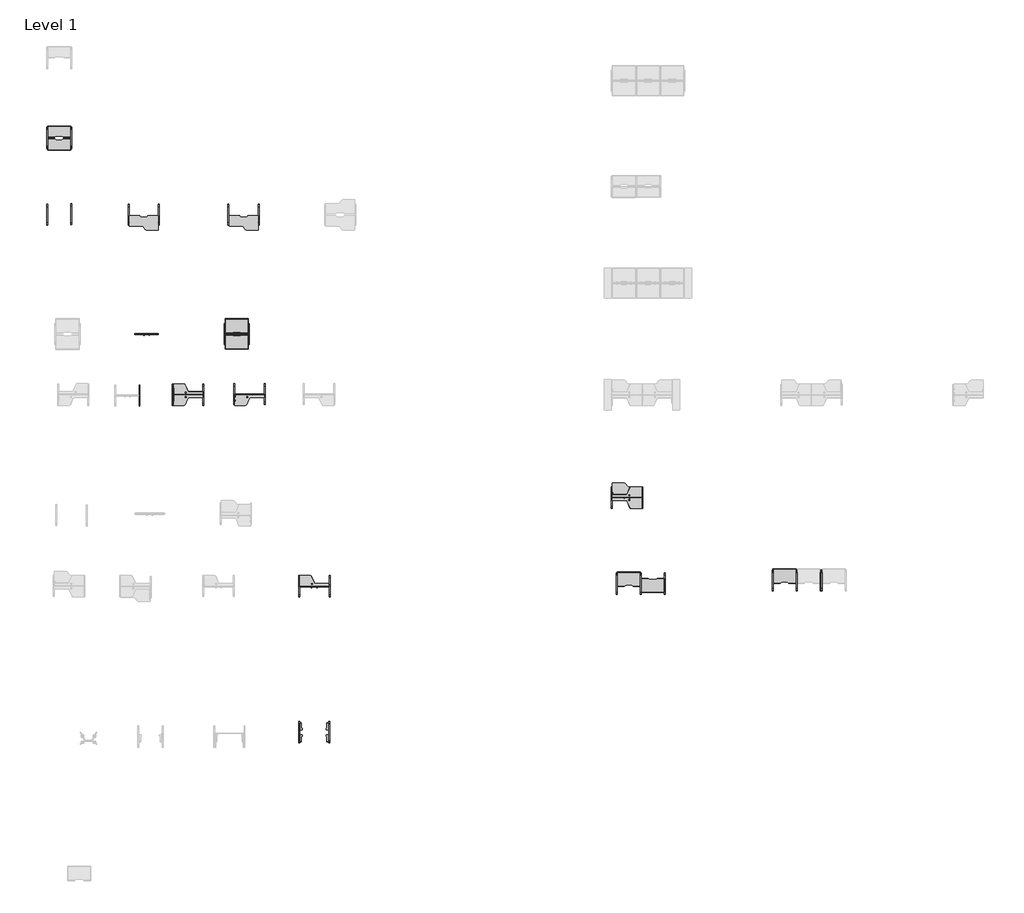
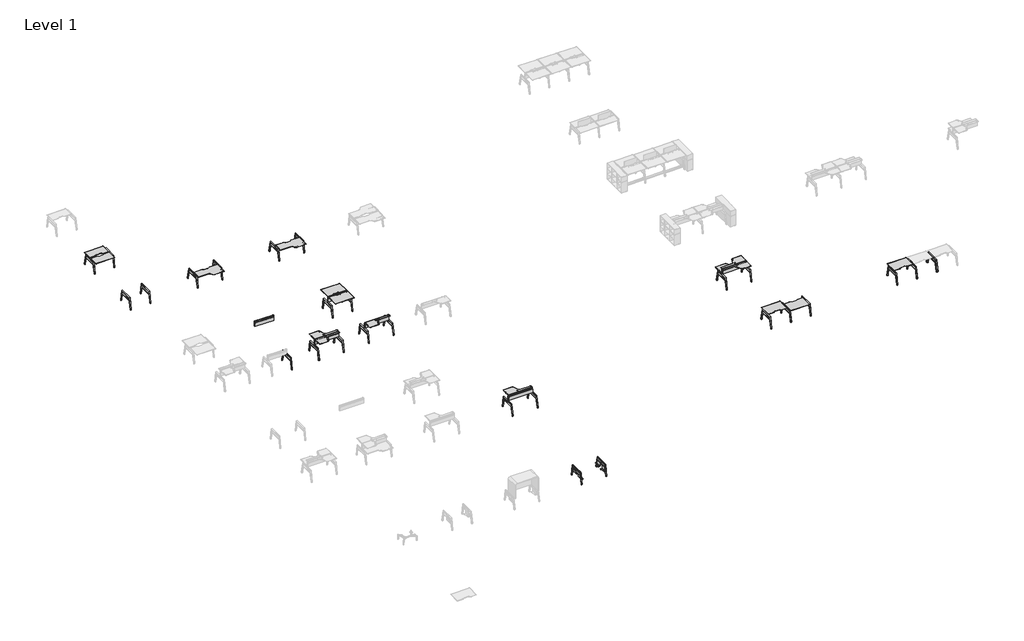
# One storey, part 2 of 6: 114 furniture elements.
"""IFC4 building model written with IfcOpenShell, lengths in millimetres."""

from ifc_helpers import new_model, si_unit, origin, place, context, project, spatial, transform, mapped, element, save
from components import furniture_6679164a, furniture_0e55591c, furniture_07929c5c, furniture_8338bea9, furniture_6d1c9745, furniture_5ffd5a01, furniture_48w_f59d3814, furniture_60w_9ca0c22e, furniture_60w_left_193ce283, furniture_60w_left_80dfc609, furniture_60w_right_423f7bdd, furniture_60w_right_6b6f8c7d, furniture_60w_right_09d68f9b, bracket_5da60547, bracket_b20a2959, double_mini_hook_front_8bcf4326, full_half_8ba35e3a, full_half_125b1efd

model = new_model("IFC4")

# Units and contexts
model_context = context("Model", 3, world=origin())
ifc_project = project(units=[si_unit("LENGTHUNIT", "METRE", prefix="MILLI")], contexts=[model_context])

# Site, building, storey
site = spatial("IfcSite", under=ifc_project)
building = spatial("IfcBuilding", under=site)
storey = spatial("IfcBuildingStorey", under=building, Name="Level 1", Elevation=0.0)

# Furniture
placement = place(None, origin())
furniture_shape = furniture_6679164a(model_context)
element("IfcFurniture", 1, ObjectType="Steelcase Turnstone - Bivi - Table - Table Top : 30D x 48W", at=placement, inside=storey, context=model_context, shape_type="MappedRepresentation", body=[
    mapped(furniture_shape, transform((702770.0460271, -10095.5014465, 330.2), x_axis=(-1.0, 0.0, 0.0), y_axis=(0.0, -1.0, 0.0), z_axis=(0.0, 0.0, 1.0))),
])
element("IfcFurniture", 2, ObjectType="Steelcase Turnstone - Bivi - Table - Table Top : 30D x 48W", at=placement, inside=storey, context=model_context, shape_type="MappedRepresentation", body=[
    mapped(furniture_shape, transform((722528.857593, -22875.5118304, 0.0), x_axis=(-1.0, 0.0, 0.0), y_axis=(0.0, -1.0, 0.0), z_axis=(0.0, 0.0, 1.0))),
])
element("IfcFurniture", 3, ObjectType="Steelcase Turnstone - Bivi - Table - Table Top : 30D x 48W", at=placement, inside=storey, context=model_context, shape_type="MappedRepresentation", body=[
    mapped(furniture_shape, transform((722273.181193, -23909.2254704, 0.0), x_axis=(0.9999999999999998, 0.0, 0.0), y_axis=(0.0, 0.9999999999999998, 0.0), z_axis=(0.0, 0.0, 1.0))),
])
element("IfcFurniture", 4, ObjectType="Steelcase Turnstone - Bivi - Table - Table Top : 30D x 48W", at=placement, inside=storey, context=model_context, shape_type="MappedRepresentation", body=[
    mapped(furniture_shape, transform((730388.9023207, -22712.7570381, 0.0), x_axis=(-1.0, 0.0, 0.0), y_axis=(0.0, -1.0, 0.0), z_axis=(0.0, 0.0, 1.0))),
])
furniture_2_shape = furniture_0e55591c(model_context)
element("IfcFurniture", 5, ObjectType="Steelcase Turnstone - Bivi - Table - Table Top : 24D x 48W", at=placement, inside=storey, context=model_context, shape_type="MappedRepresentation", body=[
    mapped(furniture_2_shape, transform((693812.8186567, -215.7178333, 0.0), x_axis=(-1.0, 0.0, 0.0), y_axis=(0.0, -1.0, 0.0), z_axis=(0.0, 0.0, 1.0))),
])
furniture_3_shape = furniture_07929c5c(model_context)
element("IfcFurniture", 6, ObjectType="Steelcase Turnstone - Bivi - Table - Leg : 2D x 42 1/4W 28 1/2H", at=placement, inside=storey, context=model_context, shape_type="MappedRepresentation", body=[
    mapped(furniture_3_shape, transform((693709.5422567, -1514.1238279, 0.0), x_axis=(-1.0, 0.0, 0.0), y_axis=(0.0, -1.0, 0.0), z_axis=(0.0, 0.0, 1.0))),
])
element("IfcFurniture", 7, ObjectType="Steelcase Turnstone - Bivi - Table - Leg : 2D x 42 1/4W 28 1/2H", at=placement, inside=storey, context=model_context, shape_type="MappedRepresentation", body=[
    mapped(furniture_3_shape, transform((697154.305945, -14498.0445441, 0.0), x_axis=(-1.0, 0.0, 0.0), y_axis=(0.0, -1.0, 0.0), z_axis=(0.0, 0.0, 1.0))),
])
element("IfcFurniture", 8, ObjectType="Steelcase Turnstone - Bivi - Table - Leg : 2D x 42 1/4W 28 1/2H", at=placement, inside=storey, context=model_context, shape_type="MappedRepresentation", body=[
    mapped(furniture_3_shape, transform((700363.4208352, -14467.3937544, 0.0), x_axis=(-1.0, 0.0, 0.0), y_axis=(0.0, -1.0, 0.0), z_axis=(0.0, 0.0, 1.0))),
])
element("IfcFurniture", 9, ObjectType="Steelcase Turnstone - Bivi - Table - Leg : 2D x 42 1/4W 28 1/2H", at=placement, inside=storey, context=model_context, shape_type="MappedRepresentation", body=[
    mapped(furniture_3_shape, transform((693709.5422567, -5357.2879484, 0.0), x_axis=(-1.0, 0.0, 0.0), y_axis=(0.0, -1.0, 0.0), z_axis=(0.0, 0.0, 1.0))),
])
element("IfcFurniture", 10, ObjectType="Steelcase Turnstone - Bivi - Table - Leg : 2D x 42 1/4W 28 1/2H", at=placement, inside=storey, context=model_context, shape_type="MappedRepresentation", body=[
    mapped(furniture_3_shape, transform((698129.1482581, -5382.1993674, 0.0), x_axis=(-1.0, 0.0, 0.0), y_axis=(0.0, -1.0, 0.0), z_axis=(0.0, 0.0, 1.0))),
])
element("IfcFurniture", 11, ObjectType="Steelcase Turnstone - Bivi - Table - Leg : 2D x 42 1/4W 28 1/2H", at=placement, inside=storey, context=model_context, shape_type="MappedRepresentation", body=[
    mapped(furniture_3_shape, transform((703171.0482581, -5382.1993674, 0.0), x_axis=(-1.0, 0.0, 0.0), y_axis=(0.0, -1.0, 0.0), z_axis=(0.0, 0.0, 1.0))),
])
element("IfcFurniture", 12, ObjectType="Steelcase Turnstone - Bivi - Table - Leg : 2D x 42 1/4W 28 1/2H", at=placement, inside=storey, context=model_context, shape_type="MappedRepresentation", body=[
    mapped(furniture_3_shape, transform((706733.9327901, -24123.6204149, 0.0), x_axis=(-1.0, 0.0, 0.0), y_axis=(0.0, -1.0, 0.0), z_axis=(0.0, 0.0, 1.0))),
])
element("IfcFurniture", 13, ObjectType="Steelcase Turnstone - Bivi - Table - Leg : 2D x 42 1/4W 28 1/2H", at=placement, inside=storey, context=model_context, shape_type="MappedRepresentation", body=[
    mapped(furniture_3_shape, transform((722492.1850089, -19651.9967596, 0.0), x_axis=(-1.0, 0.0, 0.0), y_axis=(0.0, -1.0, 0.0), z_axis=(0.0, 0.0, 1.0))),
])
element("IfcFurniture", 14, ObjectType="Steelcase Turnstone - Bivi - Table - Leg : 2D x 42 1/4W 28 1/2H", at=placement, inside=storey, context=model_context, shape_type="MappedRepresentation", body=[
    mapped(furniture_3_shape, transform((722425.581193, -23991.0644247, 0.0), x_axis=(-1.0, 0.0, 0.0), y_axis=(0.0, -1.0, 0.0), z_axis=(0.0, 0.0, 1.0))),
])
element("IfcFurniture", 15, ObjectType="Steelcase Turnstone - Bivi - Table - Leg : 2D x 42 1/4W 28 1/2H", at=placement, inside=storey, context=model_context, shape_type="MappedRepresentation", body=[
    mapped(furniture_3_shape, transform((730285.6259207, -23828.3096324, 0.0), x_axis=(-1.0, 0.0, 0.0), y_axis=(0.0, -1.0, 0.0), z_axis=(0.0, 0.0, 1.0))),
])
element("IfcFurniture", 16, ObjectType="Steelcase Turnstone - Bivi - Table - Leg : 2D x 42 1/4W 28 1/2H", at=placement, inside=storey, context=model_context, shape_type="MappedRepresentation", body=[
    mapped(furniture_3_shape, transform((731553.9495207, -23828.3096324, 0.0), x_axis=(-1.0, 0.0, 0.0), y_axis=(0.0, -1.0, 0.0), z_axis=(0.0, 0.0, 1.0))),
])
element("IfcFurniture", 17, ObjectType="Steelcase Turnstone - Bivi - Table - Leg : 2D x 42 1/4W 28 1/2H", at=placement, inside=storey, context=model_context, shape_type="MappedRepresentation", body=[
    mapped(furniture_3_shape, transform((702666.7696271, -11401.7598524, 0.0), x_axis=(-1.0, 0.0, 0.0), y_axis=(0.0, -1.0, 0.0), z_axis=(0.0, 0.0, 1.0))),
])
element("IfcFurniture", 18, ObjectType="Steelcase Turnstone - Bivi - Table - Leg : 2D x 42 1/4W 28 1/2H", at=placement, inside=storey, context=model_context, shape_type="MappedRepresentation", body=[
    mapped(furniture_3_shape, transform((703462.2208352, -14423.847304, 0.0), x_axis=(-1.0, 0.0, 0.0), y_axis=(0.0, -1.0, 0.0), z_axis=(0.0, 0.0, 1.0))),
])
element("IfcFurniture", 19, ObjectType="Steelcase Turnstone - Bivi - Table - Leg : 2D x 42 1/4W 28 1/2H", at=placement, inside=storey, context=model_context, shape_type="MappedRepresentation", body=[
    mapped(furniture_3_shape, transform((706715.3251728, -31482.8828317, 0.0), x_axis=(-1.0, 0.0, 0.0), y_axis=(0.0, -1.0, 0.0), z_axis=(0.0, 0.0, 1.0))),
])
furniture_4_shape = furniture_8338bea9(model_context)
element("IfcFurniture", 20, ObjectType="Steelcase Turnstone - Bivi - Table - Table Top : 24D x 48W", at=placement, inside=storey, context=model_context, shape_type="MappedRepresentation", body=[
    mapped(furniture_4_shape, transform((693812.8186567, -1739.2559237, 0.0), x_axis=(-1.0, 0.0, 0.0), y_axis=(0.0, -1.0, 0.0), z_axis=(0.0, 0.0, 1.0))),
])
furniture_5_shape = furniture_6d1c9745(model_context)
element("IfcFurniture", 21, ObjectType="Steelcase Turnstone - Bivi - Table - Table Top : 30D x 48W", at=placement, inside=storey, context=model_context, shape_type="MappedRepresentation", body=[
    mapped(furniture_5_shape, transform((702770.0460271, -11634.7443593, 330.2), x_axis=(-1.0, 0.0, 0.0), y_axis=(0.0, -1.0, 0.0), z_axis=(0.0, 0.0, 1.0))),
])
furniture_6_shape = furniture_5ffd5a01(model_context)
element("IfcFurniture", 22, ObjectType="Steelcase Turnstone - Bivi - Table - Leg : 2D x 42 1/4W 28 1/2H", at=placement, inside=storey, context=model_context, shape_type="MappedRepresentation", body=[
    mapped(furniture_6_shape, transform((692442.8950567, -1514.1238279, 0.0), x_axis=(1.0, 0.0, 0.0), y_axis=(0.0, 1.0, 0.0), z_axis=(0.0, 0.0, 1.0))),
])
element("IfcFurniture", 23, ObjectType="Steelcase Turnstone - Bivi - Table - Leg : 2D x 42 1/4W 28 1/2H", at=placement, inside=storey, context=model_context, shape_type="MappedRepresentation", body=[
    mapped(furniture_6_shape, transform((698791.9736352, -14467.3937544, 0.0), x_axis=(1.0, 0.0, 0.0), y_axis=(0.0, 1.0, 0.0), z_axis=(0.0, 0.0, 1.0))),
])
element("IfcFurniture", 24, ObjectType="Steelcase Turnstone - Bivi - Table - Leg : 2D x 42 1/4W 28 1/2H", at=placement, inside=storey, context=model_context, shape_type="MappedRepresentation", body=[
    mapped(furniture_6_shape, transform((692442.8950567, -5374.9238279, 0.0), x_axis=(1.0, 0.0, 0.0), y_axis=(0.0, 1.0, 0.0), z_axis=(0.0, 0.0, 1.0))),
])
element("IfcFurniture", 25, ObjectType="Steelcase Turnstone - Bivi - Table - Leg : 2D x 42 1/4W 28 1/2H", at=placement, inside=storey, context=model_context, shape_type="MappedRepresentation", body=[
    mapped(furniture_6_shape, transform((696557.6950567, -5382.1993674, 0.0), x_axis=(1.0, 0.0, 0.0), y_axis=(0.0, 1.0, 0.0), z_axis=(0.0, 0.0, 1.0))),
])
element("IfcFurniture", 26, ObjectType="Steelcase Turnstone - Bivi - Table - Leg : 2D x 42 1/4W 28 1/2H", at=placement, inside=storey, context=model_context, shape_type="MappedRepresentation", body=[
    mapped(furniture_6_shape, transform((701586.8950567, -5382.1993674, 0.0), x_axis=(1.0, 0.0, 0.0), y_axis=(0.0, 1.0, 0.0), z_axis=(0.0, 0.0, 1.0))),
])
element("IfcFurniture", 27, ObjectType="Steelcase Turnstone - Bivi - Table - Leg : 2D x 42 1/4W 28 1/2H", at=placement, inside=storey, context=model_context, shape_type="MappedRepresentation", body=[
    mapped(furniture_6_shape, transform((705147.0911447, -24118.1739645, 0.0), x_axis=(1.0, 0.0, 0.0), y_axis=(0.0, 1.0, 0.0), z_axis=(0.0, 0.0, 1.0))),
])
element("IfcFurniture", 28, ObjectType="Steelcase Turnstone - Bivi - Table - Leg : 2D x 42 1/4W 28 1/2H", at=placement, inside=storey, context=model_context, shape_type="MappedRepresentation", body=[
    mapped(furniture_6_shape, transform((720920.7318075, -19659.2722991, 0.0), x_axis=(1.0, 0.0, 0.0), y_axis=(0.0, 1.0, 0.0), z_axis=(0.0, 0.0, 1.0))),
])
element("IfcFurniture", 29, ObjectType="Steelcase Turnstone - Bivi - Table - Leg : 2D x 42 1/4W 28 1/2H", at=placement, inside=storey, context=model_context, shape_type="MappedRepresentation", body=[
    mapped(furniture_6_shape, transform((721160.610393, -23991.0644247, 0.0), x_axis=(1.0, 0.0, 0.0), y_axis=(0.0, 1.0, 0.0), z_axis=(0.0, 0.0, 1.0))),
])
element("IfcFurniture", 30, ObjectType="Steelcase Turnstone - Bivi - Table - Leg : 2D x 42 1/4W 28 1/2H", at=placement, inside=storey, context=model_context, shape_type="MappedRepresentation", body=[
    mapped(furniture_6_shape, transform((723595.657593, -23991.0644247, 0.0), x_axis=(1.0, 0.0, 0.0), y_axis=(0.0, 1.0, 0.0), z_axis=(0.0, 0.0, 1.0))),
])
element("IfcFurniture", 31, ObjectType="Steelcase Turnstone - Bivi - Table - Leg : 2D x 42 1/4W 28 1/2H", at=placement, inside=storey, context=model_context, shape_type="MappedRepresentation", body=[
    mapped(furniture_6_shape, transform((729022.3315207, -23828.3096324, 0.0), x_axis=(1.0, 0.0, 0.0), y_axis=(0.0, 1.0, 0.0), z_axis=(0.0, 0.0, 1.0))),
])
element("IfcFurniture", 32, ObjectType="Steelcase Turnstone - Bivi - Table - Leg : 2D x 42 1/4W 28 1/2H", at=placement, inside=storey, context=model_context, shape_type="MappedRepresentation", body=[
    mapped(furniture_6_shape, transform((731455.7023207, -23828.3096324, 0.0), x_axis=(1.0, 0.0, 0.0), y_axis=(0.0, 1.0, 0.0), z_axis=(0.0, 0.0, 1.0))),
])
element("IfcFurniture", 33, ObjectType="Steelcase Turnstone - Bivi - Table - Leg : 2D x 42 1/4W 28 1/2H", at=placement, inside=storey, context=model_context, shape_type="MappedRepresentation", body=[
    mapped(furniture_6_shape, transform((701400.1224271, -11401.7598524, 0.0), x_axis=(1.0, 0.0, 0.0), y_axis=(0.0, 1.0, 0.0), z_axis=(0.0, 0.0, 1.0))),
])
element("IfcFurniture", 34, ObjectType="Steelcase Turnstone - Bivi - Table - Leg : 2D x 42 1/4W 28 1/2H", at=placement, inside=storey, context=model_context, shape_type="MappedRepresentation", body=[
    mapped(furniture_6_shape, transform((701890.7736352, -14423.847304, 0.0), x_axis=(1.0, 0.0, 0.0), y_axis=(0.0, 1.0, 0.0), z_axis=(0.0, 0.0, 1.0))),
])
element("IfcFurniture", 35, ObjectType="Steelcase Turnstone - Bivi - Table - Leg : 2D x 42 1/4W 28 1/2H", at=placement, inside=storey, context=model_context, shape_type="MappedRepresentation", body=[
    mapped(furniture_6_shape, transform((705147.0529728, -31482.8828317, 0.0), x_axis=(1.0, 0.0, 0.0), y_axis=(0.0, 1.0, 0.0), z_axis=(0.0, 0.0, 1.0))),
])
furniture_48w_shape = furniture_48w_f59d3814(model_context)
element("IfcFurniture", 36, ObjectType="Steelcase Turnstone - Bivi - Accessories - High Sit Bracket with Modesty Panel : 48W", at=placement, inside=storey, context=model_context, shape_type="MappedRepresentation", body=[
    mapped(furniture_48w_shape, transform((696748.4680271, -10782.6400419, 0.0), x_axis=(1.0, 0.0, 0.0), y_axis=(0.0, 1.0, 0.0), z_axis=(0.0, 0.0, 1.0))),
])
element("IfcFurniture", 37, ObjectType="Steelcase Turnstone - Bivi - Accessories - High Sit Bracket with Modesty Panel : 48W", at=placement, inside=storey, context=model_context, shape_type="MappedRepresentation", body=[
    mapped(furniture_48w_shape, transform((701295.0680271, -10782.6400419, 0.0), x_axis=(1.0, 0.0, 0.0), y_axis=(0.0, 1.0, 0.0), z_axis=(0.0, 0.0, 1.0))),
])
furniture_60w_shape = furniture_60w_9ca0c22e(model_context)
element("IfcFurniture", 38, ObjectType="Steelcase Turnstone - Bivi - Accessories - High Sit Bracket with Modesty Panel : 60W", at=placement, inside=storey, context=model_context, shape_type="MappedRepresentation", body=[
    mapped(furniture_60w_shape, transform((698839.3192352, -13841.0954705, 0.0), x_axis=(1.0, 0.0, 0.0), y_axis=(0.0, 1.0, 0.0), z_axis=(0.0, 0.0, 1.0))),
])
element("IfcFurniture", 39, ObjectType="Steelcase Turnstone - Bivi - Accessories - High Sit Bracket with Modesty Panel : 60W", at=placement, inside=storey, context=model_context, shape_type="MappedRepresentation", body=[
    mapped(furniture_60w_shape, transform((701938.1192352, -13841.0954705, 0.0), x_axis=(1.0, 0.0, 0.0), y_axis=(0.0, 1.0, 0.0), z_axis=(0.0, 0.0, 1.0))),
])
element("IfcFurniture", 40, ObjectType="Steelcase Turnstone - Bivi - Accessories - High Sit Bracket with Modesty Panel : 60W", at=placement, inside=storey, context=model_context, shape_type="MappedRepresentation", body=[
    mapped(furniture_60w_shape, transform((705202.1339674, -23504.5006044, 0.0), x_axis=(1.0, 0.0, 0.0), y_axis=(0.0, 1.0, 0.0), z_axis=(0.0, 0.0, 1.0))),
])
element("IfcFurniture", 41, ObjectType="Steelcase Turnstone - Bivi - Accessories - High Sit Bracket with Modesty Panel : 60W", at=placement, inside=storey, context=model_context, shape_type="MappedRepresentation", body=[
    mapped(furniture_60w_shape, transform((720969.4306316, -19032.8769492, 0.0), x_axis=(1.0, 0.0, 0.0), y_axis=(0.0, 1.0, 0.0), z_axis=(0.0, 0.0, 1.0))),
])
furniture_60w_left_shape = furniture_60w_left_193ce283(model_context)
element("IfcFurniture", 42, ObjectType="Steelcase Turnstone - Bivi - Table - Dual Top - Upper : 60W - Left", at=placement, inside=storey, context=model_context, shape_type="MappedRepresentation", body=[
    mapped(furniture_60w_left_shape, transform((698690.4912507, -14758.7409282, 12.6390766), x_axis=(1.0, 0.0, 0.0), y_axis=(0.0, 1.0, 0.0), z_axis=(0.0, 0.0, 1.0))),
])
element("IfcFurniture", 43, ObjectType="Steelcase Turnstone - Bivi - Table - Dual Top - Upper : 60W - Left", at=placement, inside=storey, context=model_context, shape_type="MappedRepresentation", body=[
    mapped(furniture_60w_left_shape, transform((701789.2912507, -14758.7409282, 12.6390766), x_axis=(1.0, 0.0, 0.0), y_axis=(0.0, 1.0, 0.0), z_axis=(0.0, 0.0, 1.0))),
])
furniture_60w_left_2_shape = furniture_60w_left_80dfc609(model_context)
element("IfcFurniture", 44, ObjectType="Steelcase Turnstone - Bivi - Table - Dual Top - Upper : 60W - Left", at=placement, inside=storey, context=model_context, shape_type="MappedRepresentation", body=[
    mapped(furniture_60w_left_2_shape, transform((698690.4912507, -13088.4157348, 12.6390766), x_axis=(1.0, 0.0, 0.0), y_axis=(0.0, 1.0, 0.0), z_axis=(0.0, 0.0, 1.0))),
])
furniture_60w_right_shape = furniture_60w_right_423f7bdd(model_context)
element("IfcFurniture", 45, ObjectType="Steelcase Turnstone - Bivi - Table - Dual Top - Lower : 60W - Right", at=placement, inside=storey, context=model_context, shape_type="MappedRepresentation", body=[
    mapped(furniture_60w_right_shape, transform((696456.9754163, -5704.3601414, 0.0), x_axis=(1.0, 0.0, 0.0), y_axis=(0.0, 1.0, 0.0), z_axis=(0.0, 0.0, 1.0))),
])
element("IfcFurniture", 46, ObjectType="Steelcase Turnstone - Bivi - Table - Dual Top - Lower : 60W - Right", at=placement, inside=storey, context=model_context, shape_type="MappedRepresentation", body=[
    mapped(furniture_60w_right_shape, transform((701498.8754163, -5704.3601414, 0.0), x_axis=(1.0, 0.0, 0.0), y_axis=(0.0, 1.0, 0.0), z_axis=(0.0, 0.0, 1.0))),
])
element("IfcFurniture", 47, ObjectType="Steelcase Turnstone - Bivi - Table - Dual Top - Lower : 60W - Right", at=placement, inside=storey, context=model_context, shape_type="MappedRepresentation", body=[
    mapped(furniture_60w_right_shape, transform((722592.9046493, -18285.5813032, 0.0), x_axis=(-1.0000000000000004, 0.0, 0.0), y_axis=(0.0, -1.0000000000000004, 0.0), z_axis=(0.0, 0.0, 1.0))),
])
furniture_60w_right_2_shape = furniture_60w_right_6b6f8c7d(model_context)
element("IfcFurniture", 48, ObjectType="Steelcase Turnstone - Bivi - Table - Dual Top - Upper : 60W - Right", at=placement, inside=storey, context=model_context, shape_type="MappedRepresentation", body=[
    mapped(furniture_60w_right_2_shape, transform((706829.4959519, -22757.2049585, 0.0), x_axis=(-1.0000000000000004, 0.0, 0.0), y_axis=(0.0, -1.0000000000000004, 0.0), z_axis=(0.0, 0.0, 1.0))),
])
element("IfcFurniture", 49, ObjectType="Steelcase Turnstone - Bivi - Table - Dual Top - Upper : 60W - Right", at=placement, inside=storey, context=model_context, shape_type="MappedRepresentation", body=[
    mapped(furniture_60w_right_2_shape, transform((720819.2554244, -19950.619473, 0.0), x_axis=(1.0, 0.0, 0.0), y_axis=(0.0, 1.0, 0.0), z_axis=(0.0, 0.0, 1.0))),
])
furniture_60w_right_3_shape = furniture_60w_right_09d68f9b(model_context)
element("IfcFurniture", 50, ObjectType="Steelcase Turnstone - Bivi - Table - Dual Top - Upper : 60W - Right", at=placement, inside=storey, context=model_context, shape_type="MappedRepresentation", body=[
    mapped(furniture_60w_right_3_shape, transform((720819.2554244, -18280.1001474, 0.0), x_axis=(1.0, 0.0, 0.0), y_axis=(0.0, 1.0, 0.0), z_axis=(0.0, 0.0, 1.0))),
])
bracket_shape = bracket_5da60547(model_context)
element("IfcFurniture", 51, ObjectType="Steelcase Turnstone - Bivi - Seat - Rumble Seat - Table Frame Attachment Bracket : Bracket", at=placement, inside=storey, context=model_context, shape_type="MappedRepresentation", body=[
    mapped(bracket_shape, transform((705090.6445691, -31249.1441068, 0.2767651), x_axis=(1.0, 0.0, 0.0), y_axis=(0.0, 1.0, 0.0), z_axis=(0.0, 0.0, 1.0))),
])
bracket_2_shape = bracket_b20a2959(model_context)
element("IfcFurniture", 52, ObjectType="Steelcase Turnstone - Bivi - Seat - Rumble Seat - Table Frame Attachment Bracket : Bracket", at=placement, inside=storey, context=model_context, shape_type="MappedRepresentation", body=[
    mapped(bracket_2_shape, transform((705090.6445691, -30671.4568717, 0.2767651), x_axis=(1.0, 0.0, 0.0), y_axis=(0.0, 1.0, 0.0), z_axis=(0.0, 0.0, 1.0))),
])
double_mini_hook_front_shape = double_mini_hook_front_8bcf4326(model_context)
element("IfcFurniture", 53, ObjectType="Steelcase Turnstone - Bivi - Accessories - Mini Hook : Double Mini Hook - Front", at=placement, inside=storey, context=model_context, shape_type="MappedRepresentation", body=[
    mapped(double_mini_hook_front_shape, transform((696748.4680271, -10782.6400419, 0.0), x_axis=(1.0, 0.0, 0.0), y_axis=(0.0, 1.0, 0.0), z_axis=(0.0, 0.0, 1.0))),
])
element("IfcFurniture", 54, ObjectType="Steelcase Turnstone - Bivi - Accessories - Mini Hook : Double Mini Hook - Front", at=placement, inside=storey, context=model_context, shape_type="MappedRepresentation", body=[
    mapped(double_mini_hook_front_shape, transform((698839.3192352, -13841.0954705, 0.0), x_axis=(1.0, 0.0, 0.0), y_axis=(0.0, 1.0, 0.0), z_axis=(0.0, 0.0, 1.0))),
])
element("IfcFurniture", 55, ObjectType="Steelcase Turnstone - Bivi - Accessories - Mini Hook : Double Mini Hook - Front", at=placement, inside=storey, context=model_context, shape_type="MappedRepresentation", body=[
    mapped(double_mini_hook_front_shape, transform((701938.1192352, -13841.0954705, 0.0), x_axis=(1.0, 0.0, 0.0), y_axis=(0.0, 1.0, 0.0), z_axis=(0.0, 0.0, 1.0))),
])
element("IfcFurniture", 56, ObjectType="Steelcase Turnstone - Bivi - Accessories - Mini Hook : Double Mini Hook - Front", at=placement, inside=storey, context=model_context, shape_type="MappedRepresentation", body=[
    mapped(double_mini_hook_front_shape, transform((705202.1339674, -23504.5006044, 0.0), x_axis=(1.0, 0.0, 0.0), y_axis=(0.0, 1.0, 0.0), z_axis=(0.0, 0.0, 1.0))),
])
element("IfcFurniture", 57, ObjectType="Steelcase Turnstone - Bivi - Accessories - Mini Hook : Double Mini Hook - Front", at=placement, inside=storey, context=model_context, shape_type="MappedRepresentation", body=[
    mapped(double_mini_hook_front_shape, transform((720969.4306316, -19032.8769492, 0.0), x_axis=(1.0, 0.0, 0.0), y_axis=(0.0, 1.0, 0.0), z_axis=(0.0, 0.0, 1.0))),
])
element("IfcFurniture", 58, ObjectType="Steelcase Turnstone - Bivi - Accessories - Mini Hook : Double Mini Hook - Front", at=placement, inside=storey, context=model_context, shape_type="MappedRepresentation", body=[
    mapped(double_mini_hook_front_shape, transform((701295.0680271, -10782.6400419, 0.0), x_axis=(1.0, 0.0, 0.0), y_axis=(0.0, 1.0, 0.0), z_axis=(0.0, 0.0, 1.0))),
])
full_half_shape = full_half_8ba35e3a(model_context)
element("IfcFurniture", 59, ObjectType="Steelcase Turnstone - Bivi - Table - Leg Cover : Full/Half", at=placement, inside=storey, context=model_context, shape_type="MappedRepresentation", body=[
    mapped(full_half_shape, transform((692442.8950567, -1514.1238279, 0.0), x_axis=(1.0, 0.0, 0.0), y_axis=(0.0, 1.0, 0.0), z_axis=(0.0, 0.0, 1.0))),
])
element("IfcFurniture", 60, ObjectType="Steelcase Turnstone - Bivi - Table - Leg Cover : Full/Half", at=placement, inside=storey, context=model_context, shape_type="MappedRepresentation", body=[
    mapped(full_half_shape, transform((693709.5422567, -440.849929, 0.0), x_axis=(-1.0, 0.0, 0.0), y_axis=(0.0, -1.0, 0.0), z_axis=(0.0, 0.0, 1.0))),
])
element("IfcFurniture", 61, ObjectType="Steelcase Turnstone - Bivi - Table - Leg Cover : Full/Half", at=placement, inside=storey, context=model_context, shape_type="MappedRepresentation", body=[
    mapped(full_half_shape, transform((697154.305945, -13424.7706452, 0.0), x_axis=(-1.0, 0.0, 0.0), y_axis=(0.0, -1.0, 0.0), z_axis=(0.0, 0.0, 1.0))),
])
element("IfcFurniture", 62, ObjectType="Steelcase Turnstone - Bivi - Table - Leg Cover : Full/Half", at=placement, inside=storey, context=model_context, shape_type="MappedRepresentation", body=[
    mapped(full_half_shape, transform((698791.9736352, -14467.3937544, 0.0), x_axis=(1.0, 0.0, 0.0), y_axis=(0.0, 1.0, 0.0), z_axis=(0.0, 0.0, 1.0))),
])
element("IfcFurniture", 63, ObjectType="Steelcase Turnstone - Bivi - Table - Leg Cover : Full/Half", at=placement, inside=storey, context=model_context, shape_type="MappedRepresentation", body=[
    mapped(full_half_shape, transform((700363.4208352, -13394.1198555, 0.0), x_axis=(-1.0, 0.0, 0.0), y_axis=(0.0, -1.0, 0.0), z_axis=(0.0, 0.0, 1.0))),
])
element("IfcFurniture", 64, ObjectType="Steelcase Turnstone - Bivi - Table - Leg Cover : Full/Half", at=placement, inside=storey, context=model_context, shape_type="MappedRepresentation", body=[
    mapped(full_half_shape, transform((692442.8950567, -5374.9238279, 0.0), x_axis=(1.0, 0.0, 0.0), y_axis=(0.0, 1.0, 0.0), z_axis=(0.0, 0.0, 1.0))),
])
element("IfcFurniture", 65, ObjectType="Steelcase Turnstone - Bivi - Table - Leg Cover : Full/Half", at=placement, inside=storey, context=model_context, shape_type="MappedRepresentation", body=[
    mapped(full_half_shape, transform((693709.5422567, -4284.0140495, 0.0), x_axis=(-1.0, 0.0, 0.0), y_axis=(0.0, -1.0, 0.0), z_axis=(0.0, 0.0, 1.0))),
])
element("IfcFurniture", 66, ObjectType="Steelcase Turnstone - Bivi - Table - Leg Cover : Full/Half", at=placement, inside=storey, context=model_context, shape_type="MappedRepresentation", body=[
    mapped(full_half_shape, transform((696557.6950567, -5382.1993674, 0.0), x_axis=(1.0, 0.0, 0.0), y_axis=(0.0, 1.0, 0.0), z_axis=(0.0, 0.0, 1.0))),
])
element("IfcFurniture", 67, ObjectType="Steelcase Turnstone - Bivi - Table - Leg Cover : Full/Half", at=placement, inside=storey, context=model_context, shape_type="MappedRepresentation", body=[
    mapped(full_half_shape, transform((698129.1482581, -4308.9254685, 0.0), x_axis=(-1.0, 0.0, 0.0), y_axis=(0.0, -1.0, 0.0), z_axis=(0.0, 0.0, 1.0))),
])
element("IfcFurniture", 68, ObjectType="Steelcase Turnstone - Bivi - Table - Leg Cover : Full/Half", at=placement, inside=storey, context=model_context, shape_type="MappedRepresentation", body=[
    mapped(full_half_shape, transform((701586.8950567, -5382.1993674, 0.0), x_axis=(1.0, 0.0, 0.0), y_axis=(0.0, 1.0, 0.0), z_axis=(0.0, 0.0, 1.0))),
])
element("IfcFurniture", 69, ObjectType="Steelcase Turnstone - Bivi - Table - Leg Cover : Full/Half", at=placement, inside=storey, context=model_context, shape_type="MappedRepresentation", body=[
    mapped(full_half_shape, transform((703171.0482581, -4308.9254685, 0.0), x_axis=(-1.0, 0.0, 0.0), y_axis=(0.0, -1.0, 0.0), z_axis=(0.0, 0.0, 1.0))),
])
element("IfcFurniture", 70, ObjectType="Steelcase Turnstone - Bivi - Table - Leg Cover : Full/Half", at=placement, inside=storey, context=model_context, shape_type="MappedRepresentation", body=[
    mapped(full_half_shape, transform((705147.0911447, -24118.1739645, 0.0), x_axis=(1.0, 0.0, 0.0), y_axis=(0.0, 1.0, 0.0), z_axis=(0.0, 0.0, 1.0))),
])
element("IfcFurniture", 71, ObjectType="Steelcase Turnstone - Bivi - Table - Leg Cover : Full/Half", at=placement, inside=storey, context=model_context, shape_type="MappedRepresentation", body=[
    mapped(full_half_shape, transform((706733.9327901, -23050.346516, 0.0), x_axis=(-1.0, 0.0, 0.0), y_axis=(0.0, -1.0, 0.0), z_axis=(0.0, 0.0, 1.0))),
])
element("IfcFurniture", 72, ObjectType="Steelcase Turnstone - Bivi - Table - Leg Cover : Full/Half", at=placement, inside=storey, context=model_context, shape_type="MappedRepresentation", body=[
    mapped(full_half_shape, transform((720920.7318075, -19659.2722991, 0.0), x_axis=(1.0, 0.0, 0.0), y_axis=(0.0, 1.0, 0.0), z_axis=(0.0, 0.0, 1.0))),
])
element("IfcFurniture", 73, ObjectType="Steelcase Turnstone - Bivi - Table - Leg Cover : Full/Half", at=placement, inside=storey, context=model_context, shape_type="MappedRepresentation", body=[
    mapped(full_half_shape, transform((722492.1850089, -18578.7228607, 0.0), x_axis=(-1.0, 0.0, 0.0), y_axis=(0.0, -1.0, 0.0), z_axis=(0.0, 0.0, 1.0))),
])
element("IfcFurniture", 74, ObjectType="Steelcase Turnstone - Bivi - Table - Leg Cover : Full/Half", at=placement, inside=storey, context=model_context, shape_type="MappedRepresentation", body=[
    mapped(full_half_shape, transform((721160.610393, -23991.0644247, 0.0), x_axis=(1.0, 0.0, 0.0), y_axis=(0.0, 1.0, 0.0), z_axis=(0.0, 0.0, 1.0))),
])
element("IfcFurniture", 75, ObjectType="Steelcase Turnstone - Bivi - Table - Leg Cover : Full/Half", at=placement, inside=storey, context=model_context, shape_type="MappedRepresentation", body=[
    mapped(full_half_shape, transform((722425.581193, -22917.7905258, 0.0), x_axis=(-1.0, 0.0, 0.0), y_axis=(0.0, -1.0, 0.0), z_axis=(0.0, 0.0, 1.0))),
])
element("IfcFurniture", 76, ObjectType="Steelcase Turnstone - Bivi - Table - Leg Cover : Full/Half", at=placement, inside=storey, context=model_context, shape_type="MappedRepresentation", body=[
    mapped(full_half_shape, transform((723595.657593, -23991.0644247, 0.0), x_axis=(1.0, 0.0, 0.0), y_axis=(0.0, 1.0, 0.0), z_axis=(0.0, 0.0, 1.0))),
])
element("IfcFurniture", 77, ObjectType="Steelcase Turnstone - Bivi - Table - Leg Cover : Full/Half", at=placement, inside=storey, context=model_context, shape_type="MappedRepresentation", body=[
    mapped(full_half_shape, transform((729022.3315207, -23828.3096324, 0.0), x_axis=(1.0, 0.0, 0.0), y_axis=(0.0, 1.0, 0.0), z_axis=(0.0, 0.0, 1.0))),
])
element("IfcFurniture", 78, ObjectType="Steelcase Turnstone - Bivi - Table - Leg Cover : Full/Half", at=placement, inside=storey, context=model_context, shape_type="MappedRepresentation", body=[
    mapped(full_half_shape, transform((730285.6259207, -22755.0357335, 0.0), x_axis=(-1.0, 0.0, 0.0), y_axis=(0.0, -1.0, 0.0), z_axis=(0.0, 0.0, 1.0))),
])
element("IfcFurniture", 79, ObjectType="Steelcase Turnstone - Bivi - Table - Leg Cover : Full/Half", at=placement, inside=storey, context=model_context, shape_type="MappedRepresentation", body=[
    mapped(full_half_shape, transform((731553.9495207, -22755.0357335, 0.0), x_axis=(-1.0, 0.0, 0.0), y_axis=(0.0, -1.0, 0.0), z_axis=(0.0, 0.0, 1.0))),
])
element("IfcFurniture", 80, ObjectType="Steelcase Turnstone - Bivi - Table - Leg Cover : Full/Half", at=placement, inside=storey, context=model_context, shape_type="MappedRepresentation", body=[
    mapped(full_half_shape, transform((731455.7023207, -23828.3096324, 0.0), x_axis=(1.0, 0.0, 0.0), y_axis=(0.0, 1.0, 0.0), z_axis=(0.0, 0.0, 1.0))),
])
element("IfcFurniture", 81, ObjectType="Steelcase Turnstone - Bivi - Table - Leg Cover : Full/Half", at=placement, inside=storey, context=model_context, shape_type="MappedRepresentation", body=[
    mapped(full_half_shape, transform((701400.1224271, -11401.7598524, 0.0), x_axis=(1.0, 0.0, 0.0), y_axis=(0.0, 1.0, 0.0), z_axis=(0.0, 0.0, 1.0))),
])
element("IfcFurniture", 82, ObjectType="Steelcase Turnstone - Bivi - Table - Leg Cover : Full/Half", at=placement, inside=storey, context=model_context, shape_type="MappedRepresentation", body=[
    mapped(full_half_shape, transform((702666.7696271, -10328.4859535, 0.0), x_axis=(-1.0, 0.0, 0.0), y_axis=(0.0, -1.0, 0.0), z_axis=(0.0, 0.0, 1.0))),
])
element("IfcFurniture", 83, ObjectType="Steelcase Turnstone - Bivi - Table - Leg Cover : Full/Half", at=placement, inside=storey, context=model_context, shape_type="MappedRepresentation", body=[
    mapped(full_half_shape, transform((701890.7736352, -14423.847304, 0.0), x_axis=(1.0, 0.0, 0.0), y_axis=(0.0, 1.0, 0.0), z_axis=(0.0, 0.0, 1.0))),
])
element("IfcFurniture", 84, ObjectType="Steelcase Turnstone - Bivi - Table - Leg Cover : Full/Half", at=placement, inside=storey, context=model_context, shape_type="MappedRepresentation", body=[
    mapped(full_half_shape, transform((703462.2208352, -13350.5734051, 0.0), x_axis=(-1.0, 0.0, 0.0), y_axis=(0.0, -1.0, 0.0), z_axis=(0.0, 0.0, 1.0))),
])
element("IfcFurniture", 85, ObjectType="Steelcase Turnstone - Bivi - Table - Leg Cover : Full/Half", at=placement, inside=storey, context=model_context, shape_type="MappedRepresentation", body=[
    mapped(full_half_shape, transform((705147.0529728, -31482.8828317, 0.0), x_axis=(1.0, 0.0, 0.0), y_axis=(0.0, 1.0, 0.0), z_axis=(0.0, 0.0, 1.0))),
])
element("IfcFurniture", 86, ObjectType="Steelcase Turnstone - Bivi - Table - Leg Cover : Full/Half", at=placement, inside=storey, context=model_context, shape_type="MappedRepresentation", body=[
    mapped(full_half_shape, transform((706715.3251728, -30409.6089328, 0.0), x_axis=(-1.0, 0.0, 0.0), y_axis=(0.0, -1.0, 0.0), z_axis=(0.0, 0.0, 1.0))),
])
full_half_2_shape = full_half_125b1efd(model_context)
element("IfcFurniture", 87, ObjectType="Steelcase Turnstone - Bivi - Table - Leg Cover : Full/Half", at=placement, inside=storey, context=model_context, shape_type="MappedRepresentation", body=[
    mapped(full_half_2_shape, transform((692442.8950567, -440.849929, 0.0), x_axis=(1.0, 0.0, 0.0), y_axis=(0.0, 1.0, 0.0), z_axis=(0.0, 0.0, 1.0))),
])
element("IfcFurniture", 88, ObjectType="Steelcase Turnstone - Bivi - Table - Leg Cover : Full/Half", at=placement, inside=storey, context=model_context, shape_type="MappedRepresentation", body=[
    mapped(full_half_2_shape, transform((693709.5422567, -1514.1238279, 0.0), x_axis=(-1.0, 0.0, 0.0), y_axis=(0.0, -1.0, 0.0), z_axis=(0.0, 0.0, 1.0))),
])
element("IfcFurniture", 89, ObjectType="Steelcase Turnstone - Bivi - Table - Leg Cover : Full/Half", at=placement, inside=storey, context=model_context, shape_type="MappedRepresentation", body=[
    mapped(full_half_2_shape, transform((697154.305945, -14498.0445441, 0.0), x_axis=(-1.0, 0.0, 0.0), y_axis=(0.0, -1.0, 0.0), z_axis=(0.0, 0.0, 1.0))),
])
element("IfcFurniture", 90, ObjectType="Steelcase Turnstone - Bivi - Table - Leg Cover : Full/Half", at=placement, inside=storey, context=model_context, shape_type="MappedRepresentation", body=[
    mapped(full_half_2_shape, transform((698791.9736352, -13394.1198555, 0.0), x_axis=(1.0, 0.0, 0.0), y_axis=(0.0, 1.0, 0.0), z_axis=(0.0, 0.0, 1.0))),
])
element("IfcFurniture", 91, ObjectType="Steelcase Turnstone - Bivi - Table - Leg Cover : Full/Half", at=placement, inside=storey, context=model_context, shape_type="MappedRepresentation", body=[
    mapped(full_half_2_shape, transform((700363.4208352, -14467.3937544, 0.0), x_axis=(-1.0, 0.0, 0.0), y_axis=(0.0, -1.0, 0.0), z_axis=(0.0, 0.0, 1.0))),
])
element("IfcFurniture", 92, ObjectType="Steelcase Turnstone - Bivi - Table - Leg Cover : Full/Half", at=placement, inside=storey, context=model_context, shape_type="MappedRepresentation", body=[
    mapped(full_half_2_shape, transform((692442.8950567, -4301.649929, 0.0), x_axis=(1.0, 0.0, 0.0), y_axis=(0.0, 1.0, 0.0), z_axis=(0.0, 0.0, 1.0))),
])
element("IfcFurniture", 93, ObjectType="Steelcase Turnstone - Bivi - Table - Leg Cover : Full/Half", at=placement, inside=storey, context=model_context, shape_type="MappedRepresentation", body=[
    mapped(full_half_2_shape, transform((693709.5422567, -5357.2879484, 0.0), x_axis=(-1.0, 0.0, 0.0), y_axis=(0.0, -1.0, 0.0), z_axis=(0.0, 0.0, 1.0))),
])
element("IfcFurniture", 94, ObjectType="Steelcase Turnstone - Bivi - Table - Leg Cover : Full/Half", at=placement, inside=storey, context=model_context, shape_type="MappedRepresentation", body=[
    mapped(full_half_2_shape, transform((696557.6950567, -4308.9254685, 0.0), x_axis=(1.0, 0.0, 0.0), y_axis=(0.0, 1.0, 0.0), z_axis=(0.0, 0.0, 1.0))),
])
element("IfcFurniture", 95, ObjectType="Steelcase Turnstone - Bivi - Table - Leg Cover : Full/Half", at=placement, inside=storey, context=model_context, shape_type="MappedRepresentation", body=[
    mapped(full_half_2_shape, transform((698129.1482581, -5382.1993674, 0.0), x_axis=(-1.0, 0.0, 0.0), y_axis=(0.0, -1.0, 0.0), z_axis=(0.0, 0.0, 1.0))),
])
element("IfcFurniture", 96, ObjectType="Steelcase Turnstone - Bivi - Table - Leg Cover : Full/Half", at=placement, inside=storey, context=model_context, shape_type="MappedRepresentation", body=[
    mapped(full_half_2_shape, transform((701586.8950567, -4308.9254685, 0.0), x_axis=(1.0, 0.0, 0.0), y_axis=(0.0, 1.0, 0.0), z_axis=(0.0, 0.0, 1.0))),
])
element("IfcFurniture", 97, ObjectType="Steelcase Turnstone - Bivi - Table - Leg Cover : Full/Half", at=placement, inside=storey, context=model_context, shape_type="MappedRepresentation", body=[
    mapped(full_half_2_shape, transform((703171.0482581, -5382.1993674, 0.0), x_axis=(-1.0, 0.0, 0.0), y_axis=(0.0, -1.0, 0.0), z_axis=(0.0, 0.0, 1.0))),
])
element("IfcFurniture", 98, ObjectType="Steelcase Turnstone - Bivi - Table - Leg Cover : Full/Half", at=placement, inside=storey, context=model_context, shape_type="MappedRepresentation", body=[
    mapped(full_half_2_shape, transform((705147.0911447, -23044.9000656, 0.0), x_axis=(1.0, 0.0, 0.0), y_axis=(0.0, 1.0, 0.0), z_axis=(0.0, 0.0, 1.0))),
])
element("IfcFurniture", 99, ObjectType="Steelcase Turnstone - Bivi - Table - Leg Cover : Full/Half", at=placement, inside=storey, context=model_context, shape_type="MappedRepresentation", body=[
    mapped(full_half_2_shape, transform((706733.9327901, -24123.6204149, 0.0), x_axis=(-1.0, 0.0, 0.0), y_axis=(0.0, -1.0, 0.0), z_axis=(0.0, 0.0, 1.0))),
])
element("IfcFurniture", 100, ObjectType="Steelcase Turnstone - Bivi - Table - Leg Cover : Full/Half", at=placement, inside=storey, context=model_context, shape_type="MappedRepresentation", body=[
    mapped(full_half_2_shape, transform((720920.7318075, -18585.9984002, 0.0), x_axis=(1.0, 0.0, 0.0), y_axis=(0.0, 1.0, 0.0), z_axis=(0.0, 0.0, 1.0))),
])
element("IfcFurniture", 101, ObjectType="Steelcase Turnstone - Bivi - Table - Leg Cover : Full/Half", at=placement, inside=storey, context=model_context, shape_type="MappedRepresentation", body=[
    mapped(full_half_2_shape, transform((722492.1850089, -19651.9967596, 0.0), x_axis=(-1.0, 0.0, 0.0), y_axis=(0.0, -1.0, 0.0), z_axis=(0.0, 0.0, 1.0))),
])
element("IfcFurniture", 102, ObjectType="Steelcase Turnstone - Bivi - Table - Leg Cover : Full/Half", at=placement, inside=storey, context=model_context, shape_type="MappedRepresentation", body=[
    mapped(full_half_2_shape, transform((721160.610393, -22917.7905258, 0.0), x_axis=(1.0, 0.0, 0.0), y_axis=(0.0, 1.0, 0.0), z_axis=(0.0, 0.0, 1.0))),
])
element("IfcFurniture", 103, ObjectType="Steelcase Turnstone - Bivi - Table - Leg Cover : Full/Half", at=placement, inside=storey, context=model_context, shape_type="MappedRepresentation", body=[
    mapped(full_half_2_shape, transform((722425.581193, -23991.0644247, 0.0), x_axis=(-1.0, 0.0, 0.0), y_axis=(0.0, -1.0, 0.0), z_axis=(0.0, 0.0, 1.0))),
])
element("IfcFurniture", 104, ObjectType="Steelcase Turnstone - Bivi - Table - Leg Cover : Full/Half", at=placement, inside=storey, context=model_context, shape_type="MappedRepresentation", body=[
    mapped(full_half_2_shape, transform((723595.657593, -22917.7905258, 0.0), x_axis=(1.0, 0.0, 0.0), y_axis=(0.0, 1.0, 0.0), z_axis=(0.0, 0.0, 1.0))),
])
element("IfcFurniture", 105, ObjectType="Steelcase Turnstone - Bivi - Table - Leg Cover : Full/Half", at=placement, inside=storey, context=model_context, shape_type="MappedRepresentation", body=[
    mapped(full_half_2_shape, transform((729022.3315207, -22755.0357335, 0.0), x_axis=(1.0, 0.0, 0.0), y_axis=(0.0, 1.0, 0.0), z_axis=(0.0, 0.0, 1.0))),
])
element("IfcFurniture", 106, ObjectType="Steelcase Turnstone - Bivi - Table - Leg Cover : Full/Half", at=placement, inside=storey, context=model_context, shape_type="MappedRepresentation", body=[
    mapped(full_half_2_shape, transform((730285.6259207, -23828.3096324, 0.0), x_axis=(-1.0, 0.0, 0.0), y_axis=(0.0, -1.0, 0.0), z_axis=(0.0, 0.0, 1.0))),
])
element("IfcFurniture", 107, ObjectType="Steelcase Turnstone - Bivi - Table - Leg Cover : Full/Half", at=placement, inside=storey, context=model_context, shape_type="MappedRepresentation", body=[
    mapped(full_half_2_shape, transform((731553.9495207, -23828.3096324, 0.0), x_axis=(-1.0, 0.0, 0.0), y_axis=(0.0, -1.0, 0.0), z_axis=(0.0, 0.0, 1.0))),
])
element("IfcFurniture", 108, ObjectType="Steelcase Turnstone - Bivi - Table - Leg Cover : Full/Half", at=placement, inside=storey, context=model_context, shape_type="MappedRepresentation", body=[
    mapped(full_half_2_shape, transform((731455.7023207, -22755.0357335, 0.0), x_axis=(1.0, 0.0, 0.0), y_axis=(0.0, 1.0, 0.0), z_axis=(0.0, 0.0, 1.0))),
])
element("IfcFurniture", 109, ObjectType="Steelcase Turnstone - Bivi - Table - Leg Cover : Full/Half", at=placement, inside=storey, context=model_context, shape_type="MappedRepresentation", body=[
    mapped(full_half_2_shape, transform((701400.1224271, -10328.4859535, 0.0), x_axis=(1.0, 0.0, 0.0), y_axis=(0.0, 1.0, 0.0), z_axis=(0.0, 0.0, 1.0))),
])
element("IfcFurniture", 110, ObjectType="Steelcase Turnstone - Bivi - Table - Leg Cover : Full/Half", at=placement, inside=storey, context=model_context, shape_type="MappedRepresentation", body=[
    mapped(full_half_2_shape, transform((702666.7696271, -11401.7598524, 0.0), x_axis=(-1.0, 0.0, 0.0), y_axis=(0.0, -1.0, 0.0), z_axis=(0.0, 0.0, 1.0))),
])
element("IfcFurniture", 111, ObjectType="Steelcase Turnstone - Bivi - Table - Leg Cover : Full/Half", at=placement, inside=storey, context=model_context, shape_type="MappedRepresentation", body=[
    mapped(full_half_2_shape, transform((701890.7736352, -13350.5734051, 0.0), x_axis=(1.0, 0.0, 0.0), y_axis=(0.0, 1.0, 0.0), z_axis=(0.0, 0.0, 1.0))),
])
element("IfcFurniture", 112, ObjectType="Steelcase Turnstone - Bivi - Table - Leg Cover : Full/Half", at=placement, inside=storey, context=model_context, shape_type="MappedRepresentation", body=[
    mapped(full_half_2_shape, transform((703462.2208352, -14423.847304, 0.0), x_axis=(-1.0, 0.0, 0.0), y_axis=(0.0, -1.0, 0.0), z_axis=(0.0, 0.0, 1.0))),
])
element("IfcFurniture", 113, ObjectType="Steelcase Turnstone - Bivi - Table - Leg Cover : Full/Half", at=placement, inside=storey, context=model_context, shape_type="MappedRepresentation", body=[
    mapped(full_half_2_shape, transform((705147.0529728, -30409.6089328, 0.0), x_axis=(1.0, 0.0, 0.0), y_axis=(0.0, 1.0, 0.0), z_axis=(0.0, 0.0, 1.0))),
])
element("IfcFurniture", 114, ObjectType="Steelcase Turnstone - Bivi - Table - Leg Cover : Full/Half", at=placement, inside=storey, context=model_context, shape_type="MappedRepresentation", body=[
    mapped(full_half_2_shape, transform((706715.3251728, -31482.8828317, 0.0), x_axis=(-1.0, 0.0, 0.0), y_axis=(0.0, -1.0, 0.0), z_axis=(0.0, 0.0, 1.0))),
])

save(model, "model.ifc")
